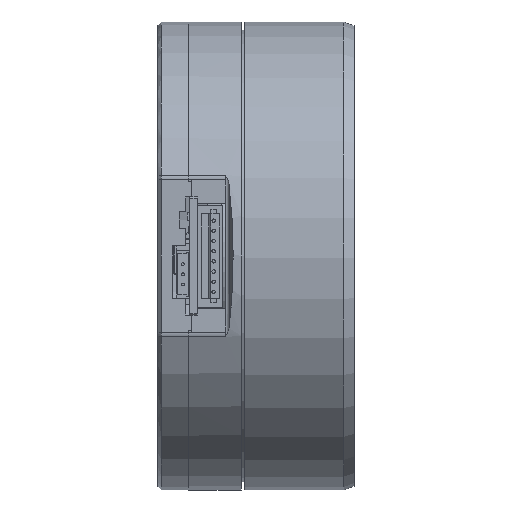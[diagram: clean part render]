
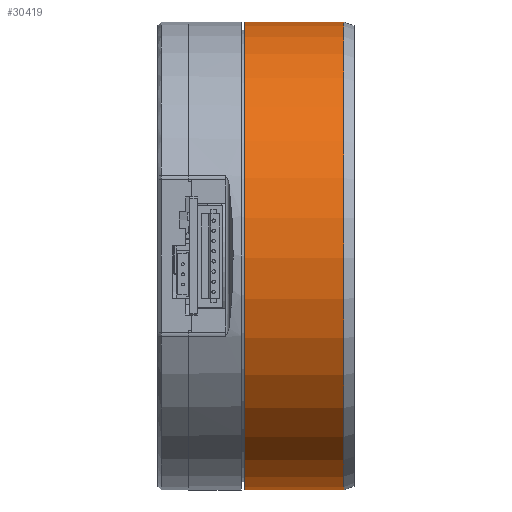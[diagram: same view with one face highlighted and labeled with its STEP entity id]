
A CAD part, front view. The second image highlights one B-rep face of the part: STEP entity #30419.
In plain terms, the highlighted cylindrical face has radius 34.5 mm (diameter 69 mm), a partial arc.
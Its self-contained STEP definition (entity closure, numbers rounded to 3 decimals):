
#380 = CARTESIAN_POINT ( 'NONE',  ( 89.232, 0.331, -34.498 ) ) ;
#3297 = DIRECTION ( 'NONE',  ( 0., 0.01, -1. ) ) ;
#3481 = DIRECTION ( 'NONE',  ( -1., 0., 0. ) ) ;
#3808 = CARTESIAN_POINT ( 'NONE',  ( 89.232, -0.331, 34.498 ) ) ;
#5865 = ORIENTED_EDGE ( 'NONE', *, *, #19497, .F. ) ;
#5949 = VECTOR ( 'NONE', #59147, 1000. ) ;
#7031 = AXIS2_PLACEMENT_3D ( 'NONE', #52385, #57054, #29304 ) ;
#9883 = DIRECTION ( 'NONE',  ( 0., 0.01, -1. ) ) ;
#14751 = CARTESIAN_POINT ( 'NONE',  ( 17.4, 0.331, -34.498 ) ) ;
#14879 = ORIENTED_EDGE ( 'NONE', *, *, #33507, .F. ) ;
#16084 = CARTESIAN_POINT ( 'NONE',  ( 2.8, 0.331, -34.498 ) ) ;
#17033 = ORIENTED_EDGE ( 'NONE', *, *, #21112, .T. ) ;
#17257 = ORIENTED_EDGE ( 'NONE', *, *, #24416, .T. ) ;
#18338 = VERTEX_POINT ( 'NONE', #53496 ) ;
#18715 = CYLINDRICAL_SURFACE ( 'NONE', #7031, 34.5 ) ;
#19244 = DIRECTION ( 'NONE',  ( 1., 0., 0. ) ) ;
#19497 = EDGE_CURVE ( 'NONE', #22517, #18338, #59306, .T. ) ;
#21112 = EDGE_CURVE ( 'NONE', #38975, #36964, #21255, .T. ) ;
#21255 = CIRCLE ( 'NONE', #23371, 34.5 ) ;
#22517 = VERTEX_POINT ( 'NONE', #16084 ) ;
#23371 = AXIS2_PLACEMENT_3D ( 'NONE', #42484, #41698, #9883 ) ;
#24416 = EDGE_CURVE ( 'NONE', #22517, #38975, #33593, .T. ) ;
#29304 = DIRECTION ( 'NONE',  ( 0., -0.01, 1. ) ) ;
#30419 = ADVANCED_FACE ( 'NONE', ( #34714 ), #18715, .T. ) ;
#32811 = LINE ( 'NONE', #3808, #5949 ) ;
#33507 = EDGE_CURVE ( 'NONE', #18338, #36964, #32811, .T. ) ;
#33593 = LINE ( 'NONE', #380, #37175 ) ;
#34442 = CARTESIAN_POINT ( 'NONE',  ( 17.4, -0.331, 34.498 ) ) ;
#34714 = FACE_OUTER_BOUND ( 'NONE', #39031, .T. ) ;
#36964 = VERTEX_POINT ( 'NONE', #34442 ) ;
#37175 = VECTOR ( 'NONE', #19244, 1000. ) ;
#38975 = VERTEX_POINT ( 'NONE', #14751 ) ;
#39031 = EDGE_LOOP ( 'NONE', ( #5865, #17257, #17033, #14879 ) ) ;
#41698 = DIRECTION ( 'NONE',  ( -1., 0., 0. ) ) ;
#42484 = CARTESIAN_POINT ( 'NONE',  ( 17.4, 0., 0. ) ) ;
#43361 = AXIS2_PLACEMENT_3D ( 'NONE', #53767, #3481, #3297 ) ;
#52385 = CARTESIAN_POINT ( 'NONE',  ( 89.232, 0., 0. ) ) ;
#53496 = CARTESIAN_POINT ( 'NONE',  ( 2.8, -0.331, 34.498 ) ) ;
#53767 = CARTESIAN_POINT ( 'NONE',  ( 2.8, 0., 0. ) ) ;
#57054 = DIRECTION ( 'NONE',  ( 1., 0., 0. ) ) ;
#59147 = DIRECTION ( 'NONE',  ( 1., 0., 0. ) ) ;
#59306 = CIRCLE ( 'NONE', #43361, 34.5 ) ;
